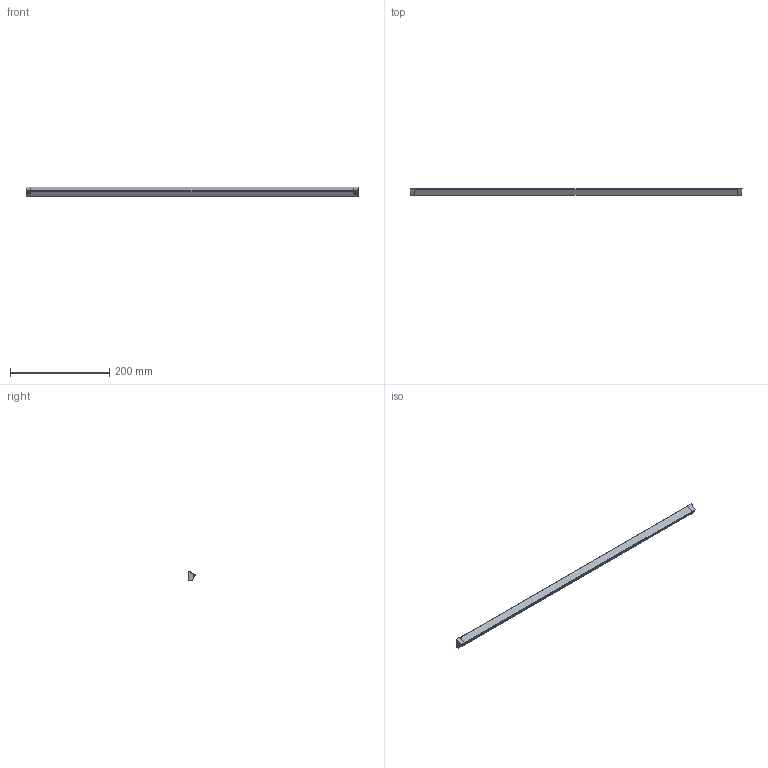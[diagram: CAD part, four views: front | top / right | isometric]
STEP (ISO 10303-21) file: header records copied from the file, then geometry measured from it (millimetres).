
FILE_DESCRIPTION(/* description */ (''),/* implementation_level */ '2;1');
FILE_NAME(/* name */ '6112511_Profil_DerbyII_sldprt.stp',/* time_stamp */ '2019-06-11T08:27:42+02:00',/* author */ (''),/* organization */ (''),/* preprocessor_version */ 'ST-DEVELOPER v16.7',/* originating_system */ 'SIEMENS PLM Software NX 12.0',/* authorisation */ '');
FILE_SCHEMA (('AUTOMOTIVE_DESIGN { 1 0 10303 214 3 1 1 1 }'));
Length unit declared in the file: millimetre
Products named in the file (1): p.sc242CC721x3eq
Bounding box: 670 x 12.83 x 19.36 mm (x, y, z)
Volume: 104608.7 mm3; surface area: 36387.7 mm2
Topology: 1 solids, 1 shells, 74 faces, 216 edges, 142 vertices
Faces by surface type: plane 36, cylinder 28, bspline 8, cone 2
Full cylindrical faces by diameter (mm): 3.4 x2
Entity records: 2801 total; most frequent: CARTESIAN_POINT 867, ORIENTED_EDGE 416, DIRECTION 370, EDGE_CURVE 208, VERTEX_POINT 140, AXIS2_PLACEMENT_3D 133, LINE 104, VECTOR 104
